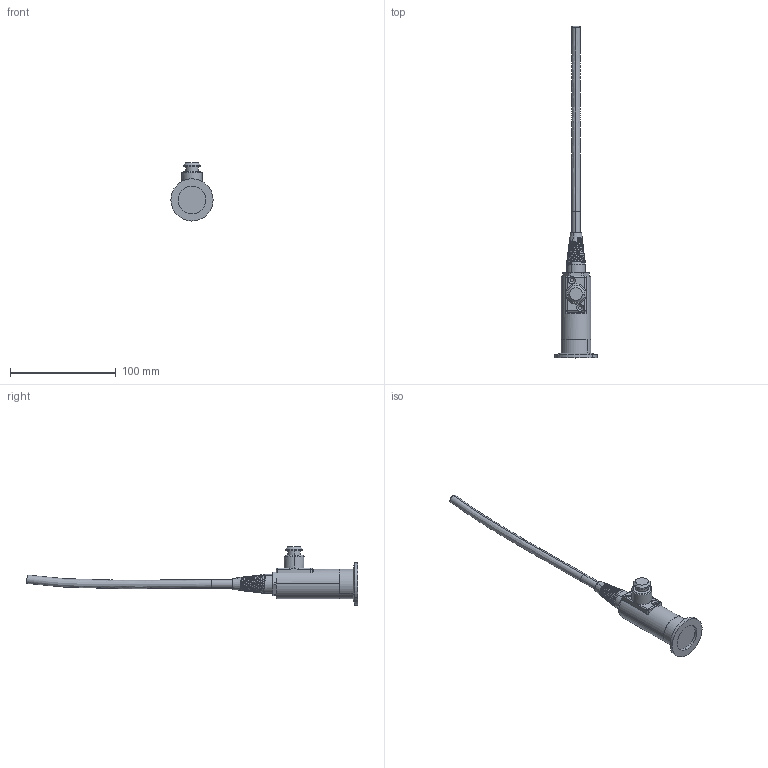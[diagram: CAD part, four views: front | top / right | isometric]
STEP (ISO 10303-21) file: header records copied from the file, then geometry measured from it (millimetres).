
FILE_DESCRIPTION (( 'STEP AP203' ), '1' );
FILE_NAME ('NX1000炵蹈帣窒.STEP', '2026-09-02T01:07:59', ( '' ), ( '' ), 'SwSTEP 2.0', 'SolidWorks 2024', '' );
FILE_SCHEMA (( 'CONFIG_CONTROL_DESIGN' ));
Length unit declared in the file: millimetre
Products named in the file (1): NX1000系列尾部
Bounding box: 39.99 x 314.31 x 55 mm (x, y, z)
Volume: 67330.2 mm3; surface area: 24449.3 mm2
Topology: 6 solids, 6 shells, 152 faces, 389 edges, 239 vertices
Faces by surface type: cylinder 67, plane 37, cone 34, bspline 10, sphere 4
Entity records: 18095 total; most frequent: CARTESIAN_POINT 14588, ORIENTED_EDGE 762, DIRECTION 656, EDGE_CURVE 381, AXIS2_PLACEMENT_3D 249, VERTEX_POINT 239, EDGE_LOOP 160, VECTOR 158
